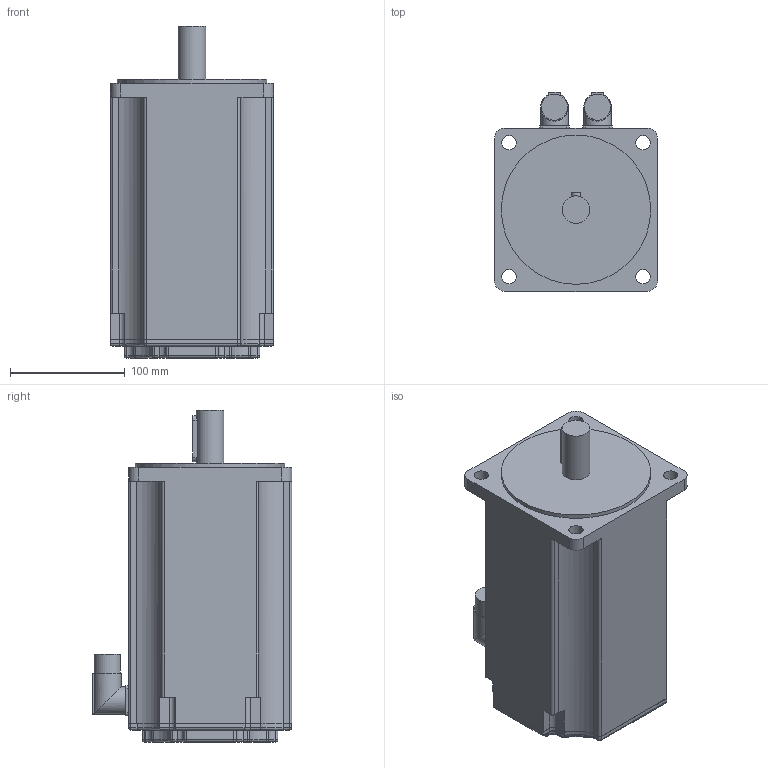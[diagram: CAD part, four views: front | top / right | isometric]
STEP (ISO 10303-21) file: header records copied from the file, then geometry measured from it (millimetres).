
FILE_DESCRIPTION(/* description */ (''),/* implementation_level */ '2;1');
FILE_NAME(/* name */ '\\Lafnas01\disegni\Archivi Lafert\3D\CAD 3D\MODELLI\Assiemi clienti\Serad\Modelli 3D Serad\B71Q\Encoder\Enc With Brake\B7112Qxx6BRx2033.ipt.stp',/* time_stamp */ '2015-09-07T10:52:15+02:00',/* author */ ('Pastrello Ylenia'),/* organization */ (''),/* preprocessor_version */ 'ST-DEVELOPER v15.6',/* originating_system */ 'Autodesk Inventor 2015',/* authorisation */ '');
FILE_SCHEMA (('AUTOMOTIVE_DESIGN { 1 0 10303 214 3 1 1 }'));
Length unit declared in the file: millimetre
Products named in the file (1): B7112Qxx6BRx2033
Bounding box: 142 x 173.5 x 289 mm (x, y, z)
Volume: 4220774.7 mm3; surface area: 177516.5 mm2
Topology: 1 solids, 1 shells, 251 faces, 624 edges, 386 vertices
Faces by surface type: cylinder 118, plane 93, torus 20, sphere 20
Full cylindrical faces by diameter (mm): 12.5 x4, 22.7 x2, 24 x3, 130 x1
Entity records: 7508 total; most frequent: CARTESIAN_POINT 1382, DIRECTION 1362, ORIENTED_EDGE 1220, EDGE_CURVE 610, AXIS2_PLACEMENT_3D 510, VERTEX_POINT 382, LINE 342, VECTOR 342
